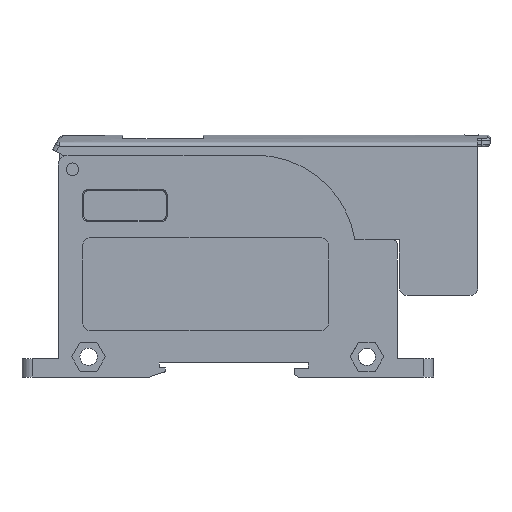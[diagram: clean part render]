
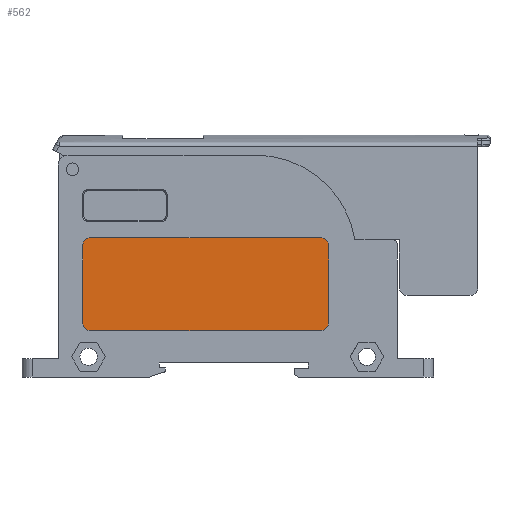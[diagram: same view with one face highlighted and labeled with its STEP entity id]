
A CAD part, left-side view. The second image highlights one B-rep face of the part: STEP entity #562.
In plain terms, the highlighted planar face has unit normal (-1, 0, 0).
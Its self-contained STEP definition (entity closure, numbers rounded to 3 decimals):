
#342=CIRCLE('',#6166,2.);
#347=CIRCLE('',#6176,2.);
#349=CIRCLE('',#6180,2.);
#350=CIRCLE('',#6181,2.);
#562=ADVANCED_FACE('',(#1061),#835,.T.);
#835=PLANE('',#6182);
#1061=FACE_OUTER_BOUND('',#1373,.T.);
#1373=EDGE_LOOP('',(#2278,#2279,#2280,#2281,#2282,#2283,#2284,#2285));
#2278=ORIENTED_EDGE('',*,*,#4252,.T.);
#2279=ORIENTED_EDGE('',*,*,#4253,.T.);
#2280=ORIENTED_EDGE('',*,*,#4254,.T.);
#2281=ORIENTED_EDGE('',*,*,#4255,.T.);
#2282=ORIENTED_EDGE('',*,*,#4256,.F.);
#2283=ORIENTED_EDGE('',*,*,#4238,.T.);
#2284=ORIENTED_EDGE('',*,*,#4236,.F.);
#2285=ORIENTED_EDGE('',*,*,#4248,.T.);
#3574=VERTEX_POINT('',#8772);
#3575=VERTEX_POINT('',#8774);
#3576=VERTEX_POINT('',#8778);
#3580=VERTEX_POINT('',#8796);
#3582=VERTEX_POINT('',#8803);
#3583=VERTEX_POINT('',#8807);
#3584=VERTEX_POINT('',#8809);
#3585=VERTEX_POINT('',#8811);
#4236=EDGE_CURVE('',#3574,#3575,#5010,.T.);
#4238=EDGE_CURVE('',#3576,#3575,#342,.T.);
#4248=EDGE_CURVE('',#3574,#3580,#347,.T.);
#4252=EDGE_CURVE('',#3580,#3582,#5019,.T.);
#4253=EDGE_CURVE('',#3582,#3583,#349,.T.);
#4254=EDGE_CURVE('',#3583,#3584,#5020,.T.);
#4255=EDGE_CURVE('',#3584,#3585,#350,.T.);
#4256=EDGE_CURVE('',#3576,#3585,#5021,.T.);
#5010=LINE('',#8773,#5637);
#5019=LINE('',#8804,#5646);
#5020=LINE('',#8808,#5647);
#5021=LINE('',#8812,#5648);
#5637=VECTOR('',#7103,1.);
#5646=VECTOR('',#7140,1.);
#5647=VECTOR('',#7145,1.);
#5648=VECTOR('',#7148,1.);
#6166=AXIS2_PLACEMENT_3D('',#8777,#7107,#7108);
#6176=AXIS2_PLACEMENT_3D('',#8797,#7132,#7133);
#6180=AXIS2_PLACEMENT_3D('',#8806,#7143,#7144);
#6181=AXIS2_PLACEMENT_3D('',#8810,#7146,#7147);
#6182=AXIS2_PLACEMENT_3D('',#8813,#7149,#7150);
#7103=DIRECTION('',(0.,0.,-1.));
#7107=DIRECTION('',(-1.,0.,0.));
#7108=DIRECTION('',(0.,0.,1.));
#7132=DIRECTION('',(-1.,0.,0.));
#7133=DIRECTION('',(0.,0.,1.));
#7140=DIRECTION('',(0.,1.,0.));
#7143=DIRECTION('',(-1.,0.,0.));
#7144=DIRECTION('',(0.,0.,1.));
#7145=DIRECTION('',(0.,0.,-1.));
#7146=DIRECTION('',(-1.,0.,0.));
#7147=DIRECTION('',(0.,0.,1.));
#7148=DIRECTION('',(0.,1.,0.));
#7149=DIRECTION('',(-1.,0.,0.));
#7150=DIRECTION('',(0.,0.,-1.));
#8772=CARTESIAN_POINT('',(10.45,10.5,18.05));
#8773=CARTESIAN_POINT('',(10.45,10.5,1.));
#8774=CARTESIAN_POINT('',(10.45,10.5,-0.95));
#8777=CARTESIAN_POINT('',(10.45,12.5,-0.95));
#8778=CARTESIAN_POINT('',(10.45,12.5,-2.95));
#8796=CARTESIAN_POINT('',(10.45,12.5,20.05));
#8797=CARTESIAN_POINT('',(10.45,12.5,18.05));
#8803=CARTESIAN_POINT('',(10.45,69.5,20.05));
#8804=CARTESIAN_POINT('',(10.45,38.,20.05));
#8806=CARTESIAN_POINT('',(10.45,69.5,18.05));
#8807=CARTESIAN_POINT('',(10.45,71.5,18.05));
#8808=CARTESIAN_POINT('',(10.45,71.5,1.));
#8809=CARTESIAN_POINT('',(10.45,71.5,-0.95));
#8810=CARTESIAN_POINT('',(10.45,69.5,-0.95));
#8811=CARTESIAN_POINT('',(10.45,69.5,-2.95));
#8812=CARTESIAN_POINT('',(10.45,38.,-2.95));
#8813=CARTESIAN_POINT('',(10.45,38.,1.));
